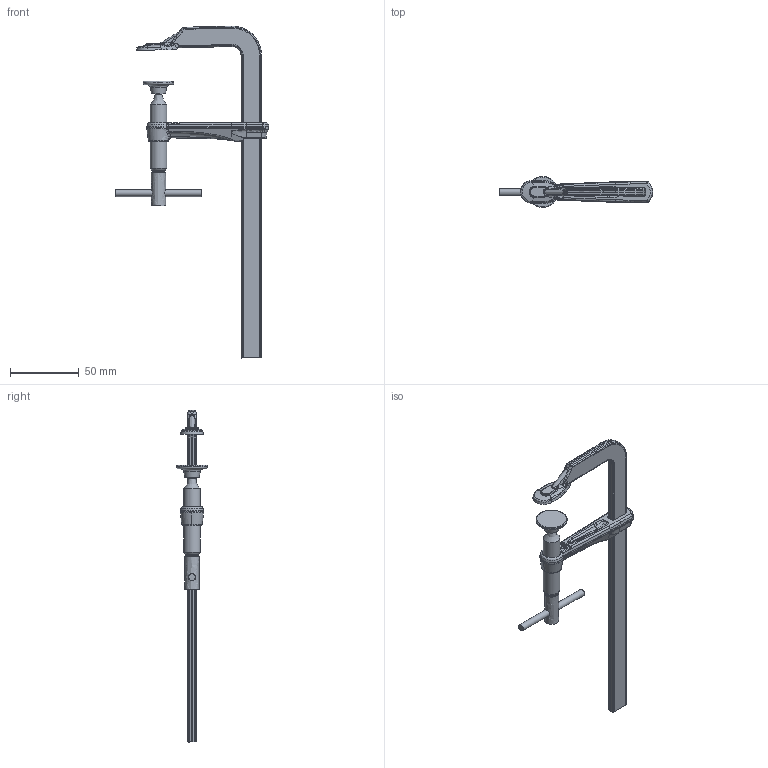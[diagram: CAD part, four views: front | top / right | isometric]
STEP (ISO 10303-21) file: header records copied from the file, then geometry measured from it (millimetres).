
FILE_DESCRIPTION( ('This file contains a STEP AP42 implementation' ,'as created by ZW3D STEP Interface translator.') ,'2;1' );
FILE_NAME( 'M-G20B6ZK.stp' ,'20 630.151653', (''), ('ZWCAD Software Co.'), 'Version 1.0', 'ZW3D to STEP translator', '' );
FILE_SCHEMA(('AUTOMOTIVE_DESIGN'));
Length unit declared in the file: millimetre
Products named in the file (7): 0; M-G20B6ZK; Festbügel_15x6_GZ12; 3101435_Gleitbügel kp GZ12; 3007974c; SpindelGr.2; 3000570_Druckplatte Gr.0
Assembly tree (5 placements, depth 3):
  0
  M-G20B6ZK
    Festbügel_15x6_GZ12
    3101435_Gleitbügel kp GZ12
      3007974c
      SpindelGr.2
      3000570_Druckplatte Gr.0
Bounding box: 111.7 x 22.49 x 241.23 mm (x, y, z)
Volume: 46332.6 mm3; surface area: 22315.6 mm2
Topology: 5 solids, 5 shells, 447 faces, 1047 edges, 613 vertices
Faces by surface type: bspline 447
Entity records: 29980 total; most frequent: CARTESIAN_POINT 23333, ORIENTED_EDGE 2074, EDGE_CURVE 1037, B_SPLINE_CURVE_WITH_KNOTS 748, VERTEX_POINT 610, EDGE_LOOP 463, FACE_OUTER_BOUND 447, ADVANCED_FACE 447
